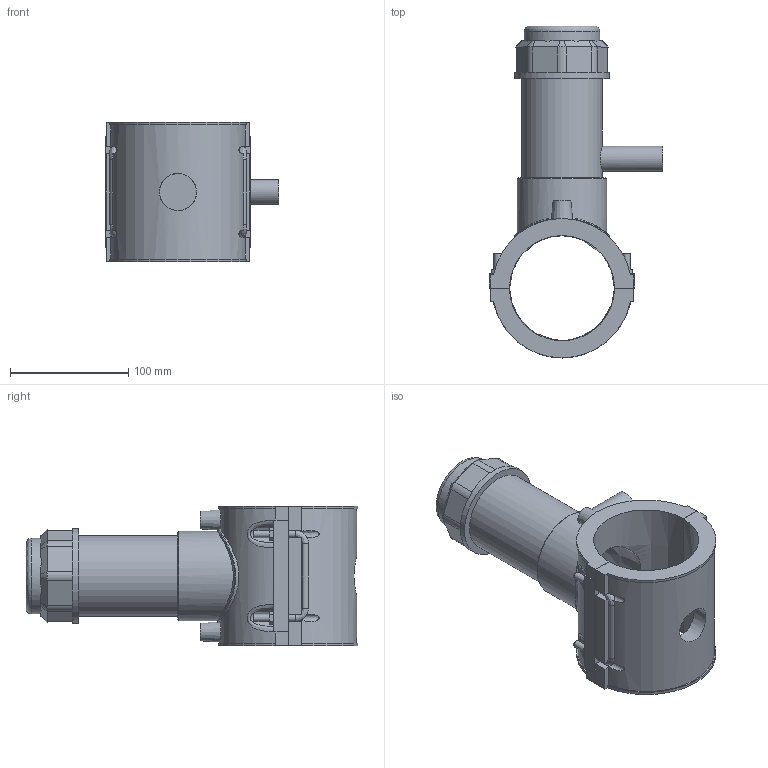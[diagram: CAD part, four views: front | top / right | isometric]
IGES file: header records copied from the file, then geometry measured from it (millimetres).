
Global section: file name: 5963BB03030005.ipt; native system: Autodesk Inventor 2019; preprocessor: unknown; author: KIM; date: 20210830.101343; units: millimetre
Bounding box: 146.54 x 280.2 x 118.11 mm (x, y, z)
Volume: 851539.7 mm3; surface area: 171431.5 mm2
Topology: 1 solids, 1 shells, 210 faces, 552 edges, 361 vertices
Faces by surface type: plane 128, cylinder 37, revolution 24, cone 15, bspline 6
Full cylindrical faces by diameter (mm): 4 x2, 6 x8, 21.2 x1, 63.864 x1, 67.856 x1, 75.838 x1, 79.83 x1
